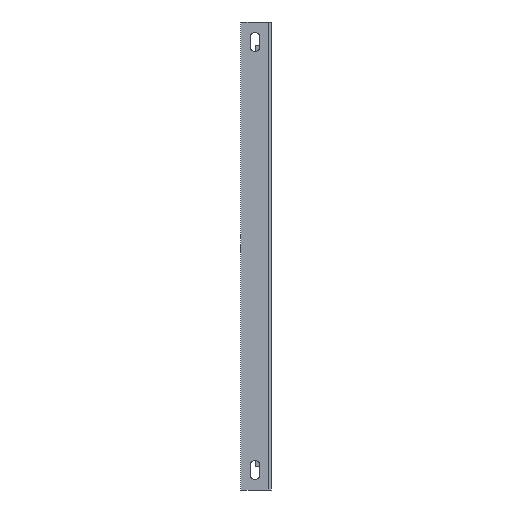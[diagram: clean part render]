
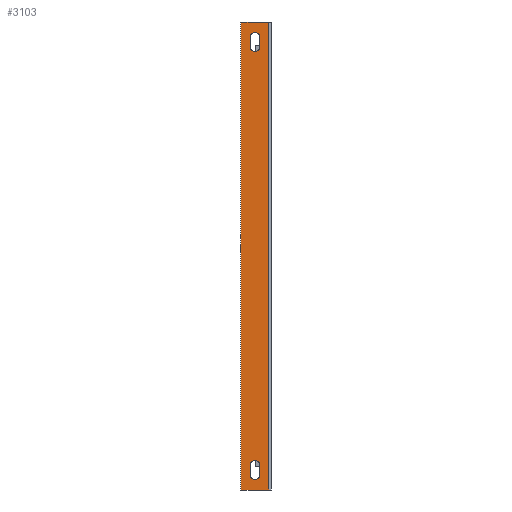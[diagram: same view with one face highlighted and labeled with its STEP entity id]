
A CAD part, left-side view. The second image highlights one B-rep face of the part: STEP entity #3103.
In plain terms, the highlighted planar face has unit normal (-1, 0, 0).
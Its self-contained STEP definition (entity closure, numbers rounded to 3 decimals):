
#1 = ORIENTED_EDGE ( 'NONE', *, *, #2787, .F. ) ;
#128 = DIRECTION ( 'NONE',  ( 0., 1., 0. ) ) ;
#170 = CARTESIAN_POINT ( 'NONE',  ( -2., 20., -26. ) ) ;
#192 = EDGE_CURVE ( 'NONE', #483, #1182, #2410, .T. ) ;
#203 = VERTEX_POINT ( 'NONE', #2819 ) ;
#281 = CARTESIAN_POINT ( 'NONE',  ( -2., 10., -26. ) ) ;
#291 = CARTESIAN_POINT ( 'NONE',  ( -2., 15., -16. ) ) ;
#374 = ORIENTED_EDGE ( 'NONE', *, *, #756, .F. ) ;
#382 = CARTESIAN_POINT ( 'NONE',  ( -2., 10., -467. ) ) ;
#393 = CARTESIAN_POINT ( 'NONE',  ( -2., 20., -477. ) ) ;
#415 = DIRECTION ( 'NONE',  ( 1., 0., 0. ) ) ;
#457 = DIRECTION ( 'NONE',  ( 0., 0., -1. ) ) ;
#483 = VERTEX_POINT ( 'NONE', #1909 ) ;
#520 = ORIENTED_EDGE ( 'NONE', *, *, #192, .F. ) ;
#534 = VERTEX_POINT ( 'NONE', #3295 ) ;
#694 = CARTESIAN_POINT ( 'NONE',  ( -2., 15., -477. ) ) ;
#702 = ORIENTED_EDGE ( 'NONE', *, *, #2551, .T. ) ;
#718 = AXIS2_PLACEMENT_3D ( 'NONE', #694, #1581, #3191 ) ;
#727 = CARTESIAN_POINT ( 'NONE',  ( -2., 20., -26. ) ) ;
#743 = VECTOR ( 'NONE', #1193, 1000. ) ;
#756 = EDGE_CURVE ( 'NONE', #2221, #534, #2222, .T. ) ;
#823 = VECTOR ( 'NONE', #2875, 1000. ) ;
#829 = DIRECTION ( 'NONE',  ( 0., 1., 0. ) ) ;
#832 = DIRECTION ( 'NONE',  ( 0., 0., -1. ) ) ;
#882 = DIRECTION ( 'NONE',  ( -1., 0., 0. ) ) ;
#886 = CARTESIAN_POINT ( 'NONE',  ( -2., 10., -26. ) ) ;
#904 = ORIENTED_EDGE ( 'NONE', *, *, #3201, .F. ) ;
#914 = DIRECTION ( 'NONE',  ( 0., -1., 0. ) ) ;
#924 = ORIENTED_EDGE ( 'NONE', *, *, #1280, .T. ) ;
#956 = VERTEX_POINT ( 'NONE', #1648 ) ;
#1026 = ORIENTED_EDGE ( 'NONE', *, *, #1394, .F. ) ;
#1096 = EDGE_LOOP ( 'NONE', ( #3192, #1188, #1437, #1026 ) ) ;
#1135 = VECTOR ( 'NONE', #1499, 1000. ) ;
#1182 = VERTEX_POINT ( 'NONE', #2893 ) ;
#1188 = ORIENTED_EDGE ( 'NONE', *, *, #2571, .F. ) ;
#1193 = DIRECTION ( 'NONE',  ( 0., 0., -1. ) ) ;
#1194 = CIRCLE ( 'NONE', #2016, 5. ) ;
#1195 = VERTEX_POINT ( 'NONE', #170 ) ;
#1214 = LINE ( 'NONE', #886, #2793 ) ;
#1230 = DIRECTION ( 'NONE',  ( 0., 0., 1. ) ) ;
#1280 = EDGE_CURVE ( 'NONE', #203, #534, #1453, .T. ) ;
#1292 = LINE ( 'NONE', #1481, #743 ) ;
#1330 = CARTESIAN_POINT ( 'NONE',  ( -2., 20., -16. ) ) ;
#1350 = EDGE_LOOP ( 'NONE', ( #374, #2319, #702, #924 ) ) ;
#1372 = CIRCLE ( 'NONE', #2434, 5. ) ;
#1394 = EDGE_CURVE ( 'NONE', #2300, #2309, #1372, .T. ) ;
#1437 = ORIENTED_EDGE ( 'NONE', *, *, #2253, .F. ) ;
#1453 = LINE ( 'NONE', #2727, #2172 ) ;
#1481 = CARTESIAN_POINT ( 'NONE',  ( -2., 30., -493. ) ) ;
#1499 = DIRECTION ( 'NONE',  ( 0., 0., 1. ) ) ;
#1501 = VECTOR ( 'NONE', #2709, 1000. ) ;
#1581 = DIRECTION ( 'NONE',  ( -1., 0., 0. ) ) ;
#1588 = VECTOR ( 'NONE', #832, 1000. ) ;
#1624 = DIRECTION ( 'NONE',  ( 0., -1., 0. ) ) ;
#1648 = CARTESIAN_POINT ( 'NONE',  ( -2., 30., 0. ) ) ;
#1649 = ORIENTED_EDGE ( 'NONE', *, *, #2502, .F. ) ;
#1699 = CIRCLE ( 'NONE', #718, 5. ) ;
#1713 = CARTESIAN_POINT ( 'NONE',  ( -2., 20., -467. ) ) ;
#1787 = CARTESIAN_POINT ( 'NONE',  ( -2., 0., 0. ) ) ;
#1790 = LINE ( 'NONE', #1713, #1588 ) ;
#1810 = FACE_BOUND ( 'NONE', #1096, .T. ) ;
#1839 = AXIS2_PLACEMENT_3D ( 'NONE', #1787, #415, #128 ) ;
#1909 = CARTESIAN_POINT ( 'NONE',  ( -2., 10., -477. ) ) ;
#1919 = VECTOR ( 'NONE', #457, 1000. ) ;
#2016 = AXIS2_PLACEMENT_3D ( 'NONE', #2492, #882, #829 ) ;
#2069 = CARTESIAN_POINT ( 'NONE',  ( -2., 0.737, 0. ) ) ;
#2154 = VERTEX_POINT ( 'NONE', #393 ) ;
#2172 = VECTOR ( 'NONE', #1624, 1000. ) ;
#2221 = VERTEX_POINT ( 'NONE', #2069 ) ;
#2222 = LINE ( 'NONE', #2386, #1919 ) ;
#2229 = FACE_OUTER_BOUND ( 'NONE', #1350, .T. ) ;
#2232 = DIRECTION ( 'NONE',  ( -1., 0., 0. ) ) ;
#2253 = EDGE_CURVE ( 'NONE', #2309, #1195, #2610, .T. ) ;
#2300 = VERTEX_POINT ( 'NONE', #2936 ) ;
#2309 = VERTEX_POINT ( 'NONE', #1330 ) ;
#2319 = ORIENTED_EDGE ( 'NONE', *, *, #2639, .T. ) ;
#2347 = AXIS2_PLACEMENT_3D ( 'NONE', #2598, #2589, #914 ) ;
#2386 = CARTESIAN_POINT ( 'NONE',  ( -2., 0.737, 0. ) ) ;
#2410 = LINE ( 'NONE', #382, #1135 ) ;
#2434 = AXIS2_PLACEMENT_3D ( 'NONE', #291, #2232, #2785 ) ;
#2456 = VERTEX_POINT ( 'NONE', #3037 ) ;
#2473 = EDGE_LOOP ( 'NONE', ( #1, #904, #1649, #520 ) ) ;
#2492 = CARTESIAN_POINT ( 'NONE',  ( -2., 15., -467. ) ) ;
#2502 = EDGE_CURVE ( 'NONE', #1182, #2456, #1194, .T. ) ;
#2551 = EDGE_CURVE ( 'NONE', #956, #203, #1292, .T. ) ;
#2571 = EDGE_CURVE ( 'NONE', #1195, #2898, #3253, .T. ) ;
#2573 = CARTESIAN_POINT ( 'NONE',  ( -2., 30., 0. ) ) ;
#2589 = DIRECTION ( 'NONE',  ( -1., 0., 0. ) ) ;
#2598 = CARTESIAN_POINT ( 'NONE',  ( -2., 15., -26. ) ) ;
#2610 = LINE ( 'NONE', #727, #1501 ) ;
#2639 = EDGE_CURVE ( 'NONE', #2221, #956, #3298, .T. ) ;
#2709 = DIRECTION ( 'NONE',  ( 0., 0., -1. ) ) ;
#2727 = CARTESIAN_POINT ( 'NONE',  ( -2., 0., -493. ) ) ;
#2785 = DIRECTION ( 'NONE',  ( 0., -1., 0. ) ) ;
#2787 = EDGE_CURVE ( 'NONE', #2154, #483, #1699, .T. ) ;
#2793 = VECTOR ( 'NONE', #1230, 1000. ) ;
#2819 = CARTESIAN_POINT ( 'NONE',  ( -2., 30., -493. ) ) ;
#2875 = DIRECTION ( 'NONE',  ( 0., 1., 0. ) ) ;
#2893 = CARTESIAN_POINT ( 'NONE',  ( -2., 10., -467. ) ) ;
#2898 = VERTEX_POINT ( 'NONE', #281 ) ;
#2936 = CARTESIAN_POINT ( 'NONE',  ( -2., 10., -16. ) ) ;
#2962 = FACE_BOUND ( 'NONE', #2473, .T. ) ;
#3037 = CARTESIAN_POINT ( 'NONE',  ( -2., 20., -467. ) ) ;
#3103 = ADVANCED_FACE ( 'NONE', ( #1810, #2962, #2229 ), #3433, .F. ) ;
#3191 = DIRECTION ( 'NONE',  ( 0., 1., 0. ) ) ;
#3192 = ORIENTED_EDGE ( 'NONE', *, *, #3251, .F. ) ;
#3201 = EDGE_CURVE ( 'NONE', #2456, #2154, #1790, .T. ) ;
#3251 = EDGE_CURVE ( 'NONE', #2898, #2300, #1214, .T. ) ;
#3253 = CIRCLE ( 'NONE', #2347, 5. ) ;
#3295 = CARTESIAN_POINT ( 'NONE',  ( -2., 0.737, -493. ) ) ;
#3298 = LINE ( 'NONE', #2573, #823 ) ;
#3433 = PLANE ( 'NONE',  #1839 ) ;
